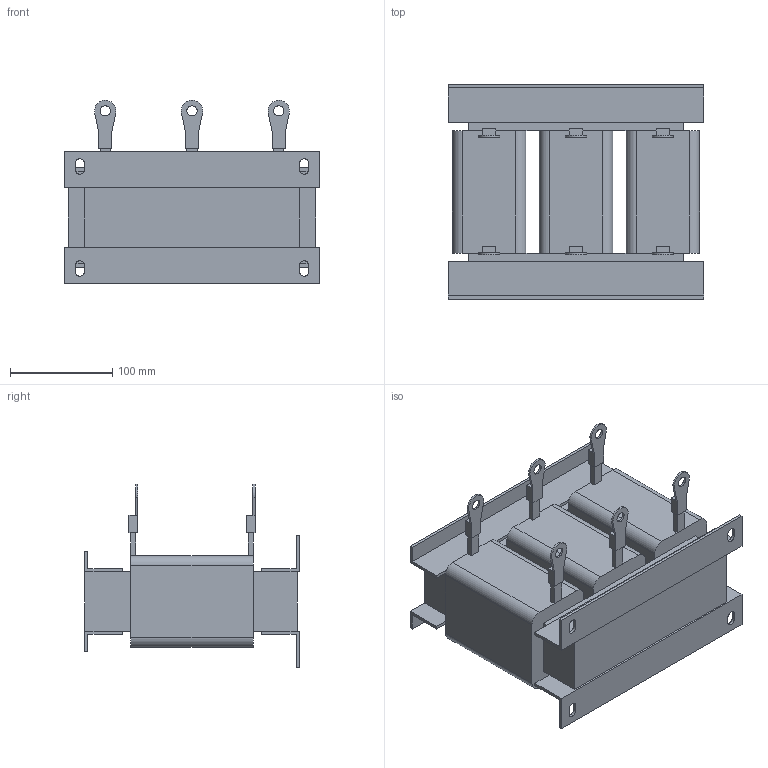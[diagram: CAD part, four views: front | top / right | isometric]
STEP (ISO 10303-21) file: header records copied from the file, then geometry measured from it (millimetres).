
FILE_DESCRIPTION(/* description */ (''),/* implementation_level */ '2;1');
FILE_NAME(/* name */ 'ACO-C-0098-T6.stp',/* time_stamp */ '2025-01-15T07:50:18+04:00',/* author */ ('Александр (огранич)'),/* organization */ (''),/* preprocessor_version */ 'ST-DEVELOPER v19.2',/* originating_system */ 'Autodesk Inventor 2024',/* authorisation */ '');
FILE_SCHEMA (('AUTOMOTIVE_DESIGN { 1 0 10303 214 3 1 1 }'));
Length unit declared in the file: millimetre
Products named in the file (1): ACO-0015-T4-4
Bounding box: 250 x 210 x 179.96 mm (x, y, z)
Volume: 3581614.4 mm3; surface area: 320390.9 mm2
Topology: 15 solids, 15 shells, 196 faces, 478 edges, 308 vertices
Faces by surface type: plane 164, cylinder 32
Full cylindrical faces by diameter (mm): 10 x6
Entity records: 5727 total; most frequent: CARTESIAN_POINT 983, ORIENTED_EDGE 956, DIRECTION 936, EDGE_CURVE 478, LINE 414, VECTOR 414, VERTEX_POINT 308, AXIS2_PLACEMENT_3D 261
